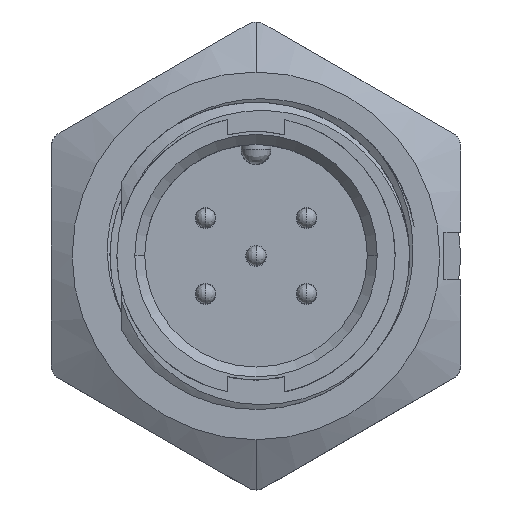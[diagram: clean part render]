
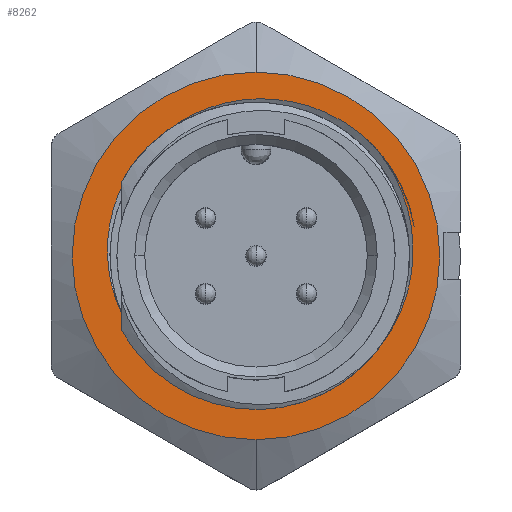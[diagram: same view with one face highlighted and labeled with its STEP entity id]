
A CAD part, top view. The second image highlights one B-rep face of the part: STEP entity #8262.
In plain terms, the highlighted planar face has unit normal (0, 0, 1).
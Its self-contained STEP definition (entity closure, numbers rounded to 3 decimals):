
#237 = PLANE ( 'NONE',  #949 ) ;
#332 = CARTESIAN_POINT ( 'NONE',  ( -5.548, -4.83, -6.1 ) ) ;
#363 = CARTESIAN_POINT ( 'NONE',  ( 5.732, -5.207, -6.1 ) ) ;
#400 = CARTESIAN_POINT ( 'NONE',  ( -3.465, -6.489, -6.1 ) ) ;
#524 = EDGE_CURVE ( 'NONE', #7248, #1662, #6731, .T. ) ;
#564 = CARTESIAN_POINT ( 'NONE',  ( 7.879, 1.35, -6.1 ) ) ;
#667 = CARTESIAN_POINT ( 'NONE',  ( 2.14, 7.737, -6.1 ) ) ;
#949 = AXIS2_PLACEMENT_3D ( 'NONE', #7503, #10763, #4319 ) ;
#1007 = CARTESIAN_POINT ( 'NONE',  ( 5.992, 5.451, -6.1 ) ) ;
#1008 = CARTESIAN_POINT ( 'NONE',  ( 0., 0., -6.1 ) ) ;
#1309 = CARTESIAN_POINT ( 'NONE',  ( -4.029, -6.148, -6.1 ) ) ;
#1374 = CARTESIAN_POINT ( 'NONE',  ( -5.963, -4.299, -6.1 ) ) ;
#1469 = CARTESIAN_POINT ( 'NONE',  ( 7.06, 3.95, -6.1 ) ) ;
#1505 = CARTESIAN_POINT ( 'NONE',  ( -6.279, -3.846, -6.1 ) ) ;
#1662 = VERTEX_POINT ( 'NONE', #6907 ) ;
#1703 = CARTESIAN_POINT ( 'NONE',  ( 4.655, 6.655, -6.1 ) ) ;
#2279 = EDGE_CURVE ( 'NONE', #9098, #1662, #12919, .T. ) ;
#2425 = CARTESIAN_POINT ( 'NONE',  ( 7.921, -0.448, -6.1 ) ) ;
#2662 = ORIENTED_EDGE ( 'NONE', *, *, #524, .F. ) ;
#2728 = CARTESIAN_POINT ( 'NONE',  ( -3.134, 7.185, -6.1 ) ) ;
#2790 = VERTEX_POINT ( 'NONE', #5538 ) ;
#2799 = CARTESIAN_POINT ( 'NONE',  ( -3.918, 6.752, -6.1 ) ) ;
#2814 = AXIS2_PLACEMENT_3D ( 'NONE', #3803, #12323, #12248 ) ;
#2993 = EDGE_CURVE ( 'NONE', #11276, #3517, #10113, .T. ) ;
#3035 = ORIENTED_EDGE ( 'NONE', *, *, #4543, .T. ) ;
#3066 = CARTESIAN_POINT ( 'NONE',  ( 5.365, 6.07, -6.1 ) ) ;
#3137 = DIRECTION ( 'NONE',  ( -1., 0., 0. ) ) ;
#3517 = VERTEX_POINT ( 'NONE', #5678 ) ;
#3537 = CARTESIAN_POINT ( 'NONE',  ( -2.967, -6.725, -6.1 ) ) ;
#3803 = CARTESIAN_POINT ( 'NONE',  ( 0., 0., -6.1 ) ) ;
#4272 = CARTESIAN_POINT ( 'NONE',  ( 5.365, 6.07, -6.1 ) ) ;
#4319 = DIRECTION ( 'NONE',  ( 1., 0., 0. ) ) ;
#4487 = EDGE_CURVE ( 'NONE', #3517, #11276, #8047, .T. ) ;
#4543 = EDGE_CURVE ( 'NONE', #7248, #2790, #12392, .T. ) ;
#4617 = CARTESIAN_POINT ( 'NONE',  ( -6.682, -3.063, -6.1 ) ) ;
#4627 = CARTESIAN_POINT ( 'NONE',  ( 3.849, 7.115, -6.1 ) ) ;
#4645 = CARTESIAN_POINT ( 'NONE',  ( 6.808, -3.822, -6.1 ) ) ;
#4744 = B_SPLINE_CURVE_WITH_KNOTS ( 'NONE', 3,
 ( #10143, #1703, #4627, #667, #5669, #10868, #5602, #2728, #2799, #4881, #5993, #7674, #13335, #13077, #9124, #7098, #9885, #6062 ),
 .UNSPECIFIED., .F., .F.,
 ( 4, 2, 2, 2, 2, 2, 2, 2, 4 ),
 ( 0., 0.125, 0.25, 0.375, 0.5, 0.625, 0.75, 0.875, 1. ),
 .UNSPECIFIED. ) ;
#4786 = CARTESIAN_POINT ( 'NONE',  ( -2.216, -7.089, -6.1 ) ) ;
#4881 = CARTESIAN_POINT ( 'NONE',  ( -5.289, 5.656, -6.1 ) ) ;
#5538 = CARTESIAN_POINT ( 'NONE',  ( -6.682, -3.063, -6.1 ) ) ;
#5602 = CARTESIAN_POINT ( 'NONE',  ( -1.455, 7.766, -6.1 ) ) ;
#5669 = CARTESIAN_POINT ( 'NONE',  ( 1.237, 7.899, -6.1 ) ) ;
#5678 = CARTESIAN_POINT ( 'NONE',  ( 0., 9.25, -6.1 ) ) ;
#5824 = CARTESIAN_POINT ( 'NONE',  ( 5.077, -5.803, -6.1 ) ) ;
#5993 = CARTESIAN_POINT ( 'NONE',  ( -5.876, 4.994, -6.1 ) ) ;
#6062 = CARTESIAN_POINT ( 'NONE',  ( -6.682, -3.063, -6.1 ) ) ;
#6357 = ORIENTED_EDGE ( 'NONE', *, *, #11876, .F. ) ;
#6554 = CARTESIAN_POINT ( 'NONE',  ( -5.32, -5.077, -6.1 ) ) ;
#6621 = CARTESIAN_POINT ( 'NONE',  ( -3.75, -6.322, -6.1 ) ) ;
#6651 = CARTESIAN_POINT ( 'NONE',  ( 5.992, 5.451, -6.1 ) ) ;
#6686 = CARTESIAN_POINT ( 'NONE',  ( -4.84, -5.549, -6.1 ) ) ;
#6731 = B_SPLINE_CURVE_WITH_KNOTS ( 'NONE', 3,
 ( #3537, #4786, #10887, #11989, #11155, #10039, #13162, #5824, #363, #4645, #6852, #9972, #2425, #564, #9904, #1469, #7761, #6651 ),
 .UNSPECIFIED., .F., .F.,
 ( 4, 2, 2, 2, 2, 2, 2, 2, 4 ),
 ( 0., 0.125, 0.25, 0.375, 0.5, 0.625, 0.75, 0.875, 1. ),
 .UNSPECIFIED. ) ;
#6823 = CARTESIAN_POINT ( 'NONE',  ( -3.938, -6.207, -6.1 ) ) ;
#6852 = CARTESIAN_POINT ( 'NONE',  ( 7.228, -3.031, -6.1 ) ) ;
#6907 = CARTESIAN_POINT ( 'NONE',  ( 5.992, 5.451, -6.1 ) ) ;
#7098 = CARTESIAN_POINT ( 'NONE',  ( -7.308, -1.502, -6.1 ) ) ;
#7248 = VERTEX_POINT ( 'NONE', #9660 ) ;
#7297 = CARTESIAN_POINT ( 'NONE',  ( 5.469, 5.983, -6.1 ) ) ;
#7503 = CARTESIAN_POINT ( 'NONE',  ( 0., 0., -6.1 ) ) ;
#7674 = CARTESIAN_POINT ( 'NONE',  ( -6.791, 3.521, -6.1 ) ) ;
#7761 = CARTESIAN_POINT ( 'NONE',  ( 6.588, 4.749, -6.1 ) ) ;
#7901 = EDGE_LOOP ( 'NONE', ( #3035, #6357, #10973, #2662 ) ) ;
#8047 = CIRCLE ( 'NONE', #11599, 9.25 ) ;
#8262 = ADVANCED_FACE ( 'NONE', ( #8475, #12901 ), #237, .T. ) ;
#8274 = ORIENTED_EDGE ( 'NONE', *, *, #4487, .F. ) ;
#8441 = CARTESIAN_POINT ( 'NONE',  ( -3.169, -6.635, -6.1 ) ) ;
#8475 = FACE_BOUND ( 'NONE', #7901, .T. ) ;
#8780 = CARTESIAN_POINT ( 'NONE',  ( -6.497, -3.464, -6.1 ) ) ;
#9098 = VERTEX_POINT ( 'NONE', #4272 ) ;
#9124 = CARTESIAN_POINT ( 'NONE',  ( -7.521, 0.176, -6.1 ) ) ;
#9660 = CARTESIAN_POINT ( 'NONE',  ( -2.967, -6.725, -6.1 ) ) ;
#9885 = CARTESIAN_POINT ( 'NONE',  ( -7.058, -2.317, -6.1 ) ) ;
#9904 = CARTESIAN_POINT ( 'NONE',  ( 7.706, 2.251, -6.1 ) ) ;
#9948 = ORIENTED_EDGE ( 'NONE', *, *, #2993, .F. ) ;
#9972 = CARTESIAN_POINT ( 'NONE',  ( 7.786, -1.344, -6.1 ) ) ;
#10039 = CARTESIAN_POINT ( 'NONE',  ( 2.813, -7.078, -6.1 ) ) ;
#10113 = CIRCLE ( 'NONE', #2814, 9.25 ) ;
#10143 = CARTESIAN_POINT ( 'NONE',  ( 5.365, 6.07, -6.1 ) ) ;
#10483 = CARTESIAN_POINT ( 'NONE',  ( 5.899, 5.559, -6.1 ) ) ;
#10552 = CARTESIAN_POINT ( 'NONE',  ( 5.798, 5.667, -6.1 ) ) ;
#10763 = DIRECTION ( 'NONE',  ( 0., 0., 1. ) ) ;
#10856 = CARTESIAN_POINT ( 'NONE',  ( -5.759, -4.569, -6.1 ) ) ;
#10868 = CARTESIAN_POINT ( 'NONE',  ( -0.561, 7.913, -6.1 ) ) ;
#10887 = CARTESIAN_POINT ( 'NONE',  ( -1.397, -7.328, -6.1 ) ) ;
#10973 = ORIENTED_EDGE ( 'NONE', *, *, #2279, .T. ) ;
#11057 = CARTESIAN_POINT ( 'NONE',  ( -4.494, -5.834, -6.1 ) ) ;
#11155 = CARTESIAN_POINT ( 'NONE',  ( 1.145, -7.467, -6.1 ) ) ;
#11276 = VERTEX_POINT ( 'NONE', #12353 ) ;
#11527 = CARTESIAN_POINT ( 'NONE',  ( 5.578, 5.883, -6.1 ) ) ;
#11599 = AXIS2_PLACEMENT_3D ( 'NONE', #1008, #12629, #3137 ) ;
#11722 = EDGE_LOOP ( 'NONE', ( #9948, #8274 ) ) ;
#11824 = CARTESIAN_POINT ( 'NONE',  ( -5.895, -4.391, -6.1 ) ) ;
#11876 = EDGE_CURVE ( 'NONE', #9098, #2790, #4744, .T. ) ;
#11989 = CARTESIAN_POINT ( 'NONE',  ( 0.283, -7.518, -6.1 ) ) ;
#12248 = DIRECTION ( 'NONE',  ( -1., 0., 0. ) ) ;
#12323 = DIRECTION ( 'NONE',  ( 0., 0., -1. ) ) ;
#12353 = CARTESIAN_POINT ( 'NONE',  ( 0., -9.25, -6.1 ) ) ;
#12392 = B_SPLINE_CURVE_WITH_KNOTS ( 'NONE', 3,
 ( #13694, #8441, #400, #6621, #6823, #1309, #11057, #6686, #6554, #332, #10856, #11824, #1374, #1505, #8780, #4617 ),
 .UNSPECIFIED., .F., .F.,
 ( 4, 1, 2, 2, 2, 1, 2, 2, 4 ),
 ( 0., 0.125, 0.188, 0.25, 0.5, 0.625, 0.688, 0.75, 1. ),
 .UNSPECIFIED. ) ;
#12629 = DIRECTION ( 'NONE',  ( 0., 0., -1. ) ) ;
#12901 = FACE_OUTER_BOUND ( 'NONE', #11722, .T. ) ;
#12919 = B_SPLINE_CURVE_WITH_KNOTS ( 'NONE', 3,
 ( #3066, #7297, #11527, #10552, #10483, #1007 ),
 .UNSPECIFIED., .F., .F.,
 ( 4, 2, 4 ),
 ( 0., 0.5, 1. ),
 .UNSPECIFIED. ) ;
#13077 = CARTESIAN_POINT ( 'NONE',  ( -7.483, 1.038, -6.1 ) ) ;
#13162 = CARTESIAN_POINT ( 'NONE',  ( 3.618, -6.74, -6.1 ) ) ;
#13335 = CARTESIAN_POINT ( 'NONE',  ( -7.119, 2.711, -6.1 ) ) ;
#13694 = CARTESIAN_POINT ( 'NONE',  ( -2.967, -6.725, -6.1 ) ) ;
